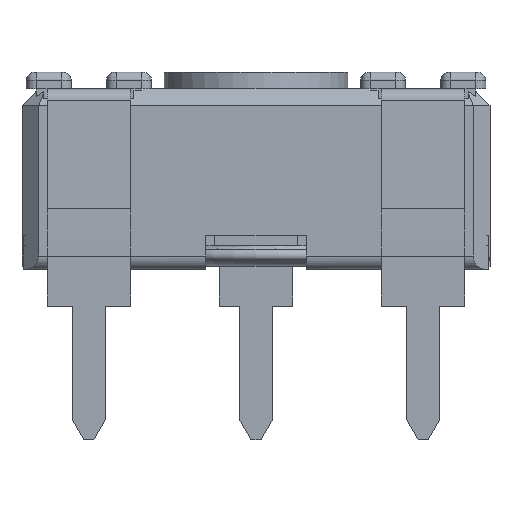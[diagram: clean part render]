
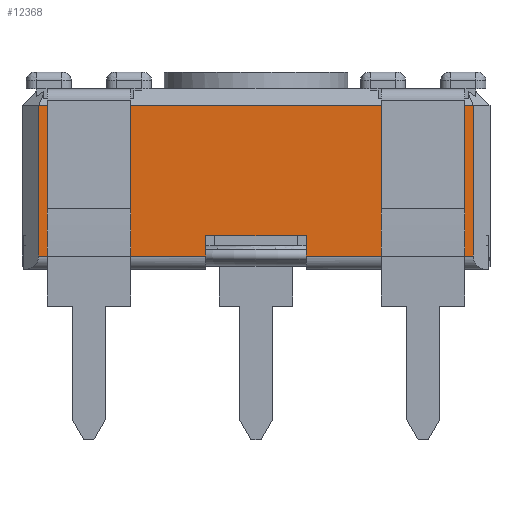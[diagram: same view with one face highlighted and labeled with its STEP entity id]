
A CAD part, front view. The second image highlights one B-rep face of the part: STEP entity #12368.
In plain terms, the highlighted planar face has unit normal (0, -1, 0).
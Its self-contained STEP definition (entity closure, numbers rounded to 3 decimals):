
#1206=FACE_OUTER_BOUND('',#1826,.T.);
#1826=EDGE_LOOP('',(#10412,#10413,#10414,#10415,#10416,#10417,#10418,#10419));
#2756=LINE('',#19341,#4048);
#2764=LINE('',#19358,#4056);
#2781=LINE('',#19401,#4073);
#2782=LINE('',#19406,#4074);
#3058=LINE('',#20195,#4350);
#3070=LINE('',#20217,#4362);
#3093=LINE('',#20270,#4385);
#3098=LINE('',#20279,#4390);
#4048=VECTOR('',#15609,10.);
#4056=VECTOR('',#15621,10.);
#4073=VECTOR('',#15658,10.);
#4074=VECTOR('',#15665,10.);
#4350=VECTOR('',#16391,10.);
#4362=VECTOR('',#16413,10.);
#4385=VECTOR('',#16460,10.);
#4390=VECTOR('',#16469,10.);
#5263=VERTEX_POINT('',#19338);
#5264=VERTEX_POINT('',#19340);
#5271=VERTEX_POINT('',#19356);
#5286=VERTEX_POINT('',#19398);
#5287=VERTEX_POINT('',#19400);
#5288=VERTEX_POINT('',#19404);
#5544=VERTEX_POINT('',#20194);
#5557=VERTEX_POINT('',#20268);
#6774=EDGE_CURVE('',#5263,#5264,#2756,.T.);
#6783=EDGE_CURVE('',#5263,#5271,#2764,.T.);
#6804=EDGE_CURVE('',#5286,#5287,#2781,.T.);
#6807=EDGE_CURVE('',#5287,#5288,#2782,.T.);
#7191=EDGE_CURVE('',#5544,#5264,#3058,.T.);
#7203=EDGE_CURVE('',#5286,#5544,#3070,.T.);
#7227=EDGE_CURVE('',#5557,#5271,#3093,.T.);
#7232=EDGE_CURVE('',#5288,#5557,#3098,.T.);
#10412=ORIENTED_EDGE('',*,*,#6774,.F.);
#10413=ORIENTED_EDGE('',*,*,#6783,.T.);
#10414=ORIENTED_EDGE('',*,*,#7227,.F.);
#10415=ORIENTED_EDGE('',*,*,#7232,.F.);
#10416=ORIENTED_EDGE('',*,*,#6807,.F.);
#10417=ORIENTED_EDGE('',*,*,#6804,.F.);
#10418=ORIENTED_EDGE('',*,*,#7203,.T.);
#10419=ORIENTED_EDGE('',*,*,#7191,.T.);
#11189=PLANE('',#13366);
#12368=ADVANCED_FACE('',(#1206),#11189,.T.);
#13366=AXIS2_PLACEMENT_3D('',#20278,#16467,#16468);
#15609=DIRECTION('',(-1.,0.,0.));
#15621=DIRECTION('',(0.,0.,1.));
#15658=DIRECTION('',(0.,0.,-1.));
#15665=DIRECTION('',(-1.,0.,0.));
#16391=DIRECTION('',(0.,0.,-1.));
#16413=DIRECTION('',(1.,0.,0.));
#16460=DIRECTION('',(1.,0.,0.));
#16467=DIRECTION('center_axis',(0.,-1.,0.));
#16468=DIRECTION('ref_axis',(1.,0.,0.));
#16469=DIRECTION('',(0.,0.,1.));
#19338=CARTESIAN_POINT('',(-3.655,0.3,-0.6));
#19340=CARTESIAN_POINT('',(-8.655,0.3,-0.6));
#19341=CARTESIAN_POINT('',(-11.325,0.3,-0.6));
#19356=CARTESIAN_POINT('',(-3.655,0.3,3.9));
#19358=CARTESIAN_POINT('',(-3.655,0.3,0.));
#19398=CARTESIAN_POINT('',(-11.655,0.3,0.));
#19400=CARTESIAN_POINT('',(-11.655,0.3,-0.6));
#19401=CARTESIAN_POINT('',(-11.655,0.3,-0.3));
#19404=CARTESIAN_POINT('',(-16.655,0.3,-0.6));
#19406=CARTESIAN_POINT('',(-15.484,0.3,-0.6));
#20194=CARTESIAN_POINT('',(-8.655,0.3,0.));
#20195=CARTESIAN_POINT('',(-8.655,0.3,0.));
#20217=CARTESIAN_POINT('',(-16.655,0.3,0.));
#20268=CARTESIAN_POINT('',(-16.655,0.3,3.9));
#20270=CARTESIAN_POINT('',(-13.405,0.3,3.9));
#20278=CARTESIAN_POINT('Origin',(-16.655,0.3,0.));
#20279=CARTESIAN_POINT('',(-16.655,0.3,0.));
